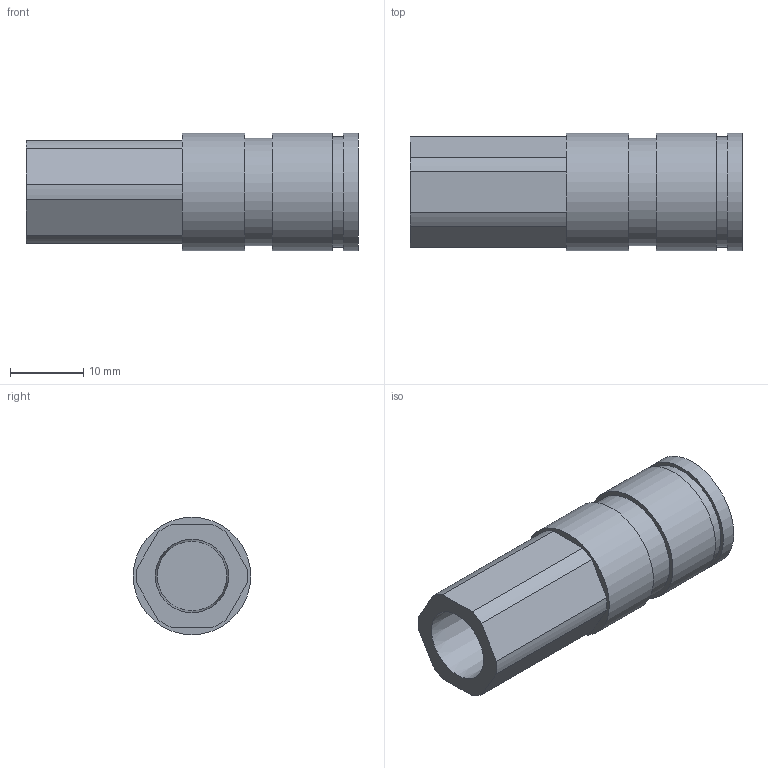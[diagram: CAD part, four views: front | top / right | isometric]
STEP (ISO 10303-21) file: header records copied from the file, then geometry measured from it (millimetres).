
FILE_DESCRIPTION((''),'2;1');
FILE_NAME('Z:\客先\あ行\アオイ\99_その他\3D_DATA\CPR_Series\9CPR-SSV-RC-C\STEP\203\CPR-SSV-RC1-8-C.ipt.stp','2008-07-02T15:27:49',(''),(''),'Autodesk Inventor 2009','Autodesk Inventor 2009','');
FILE_SCHEMA(('CONFIG_CONTROL_DESIGN'));
Length unit declared in the file: millimetre
Products named in the file (1): CPR-SSV-RC1-8-C
Bounding box: 45.2 x 16 x 16 mm (x, y, z)
Volume: 6400.3 mm3; surface area: 3451.1 mm2
Topology: 1 solids, 1 shells, 28 faces, 57 edges, 38 vertices
Faces by surface type: plane 15, cylinder 12, cone 1
Full cylindrical faces by diameter (mm): 9.1 x1, 14.7 x1, 15 x1, 16 x3
Entity records: 729 total; most frequent: DIRECTION 134, CARTESIAN_POINT 117, ORIENTED_EDGE 100, AXIS2_PLACEMENT_3D 55, EDGE_CURVE 50, EDGE_LOOP 42, VERTEX_POINT 38, FACE_OUTER_BOUND 28
